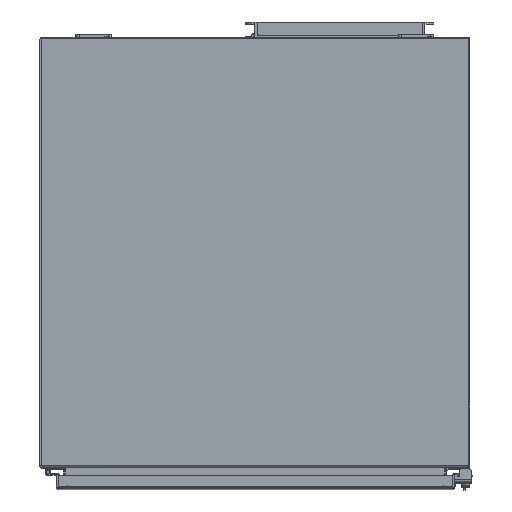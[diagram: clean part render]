
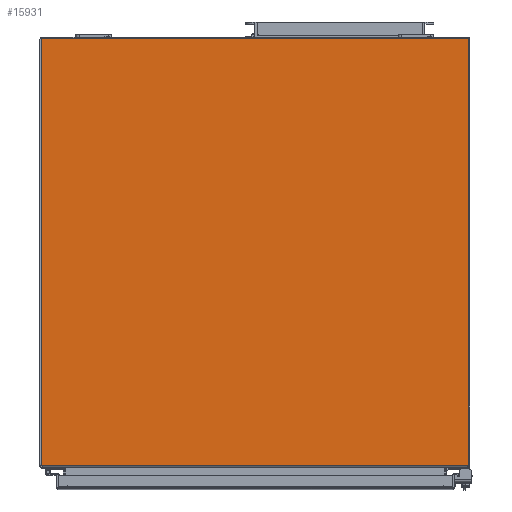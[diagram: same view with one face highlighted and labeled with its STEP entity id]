
A CAD part, top view. The second image highlights one B-rep face of the part: STEP entity #15931.
In plain terms, the highlighted planar face has unit normal (0, 0, 1).
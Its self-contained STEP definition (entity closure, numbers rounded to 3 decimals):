
#1863=LINE('',#29411,#3326);
#1867=LINE('',#29420,#3330);
#1870=LINE('',#29427,#3333);
#1874=LINE('',#29434,#3337);
#3326=VECTOR('',#21430,1000.);
#3330=VECTOR('',#21438,1000.);
#3333=VECTOR('',#21443,1000.);
#3337=VECTOR('',#21449,1000.);
#8552=ORIENTED_EDGE('',*,*,#10736,.F.);
#8553=ORIENTED_EDGE('',*,*,#10735,.F.);
#8554=ORIENTED_EDGE('',*,*,#10728,.F.);
#8555=ORIENTED_EDGE('',*,*,#10731,.T.);
#8556=ORIENTED_EDGE('',*,*,#10739,.F.);
#8557=ORIENTED_EDGE('',*,*,#10724,.T.);
#10724=EDGE_CURVE('',#12154,#12160,#1863,.T.);
#10728=EDGE_CURVE('',#12163,#12164,#1867,.T.);
#10731=EDGE_CURVE('',#12163,#12166,#1870,.T.);
#10735=EDGE_CURVE('',#12164,#12168,#1874,.T.);
#10736=EDGE_CURVE('',#12168,#12160,#12624,.T.);
#10739=EDGE_CURVE('',#12154,#12166,#12627,.T.);
#12154=VERTEX_POINT('',#29322);
#12160=VERTEX_POINT('',#29404);
#12163=VERTEX_POINT('',#29419);
#12164=VERTEX_POINT('',#29421);
#12166=VERTEX_POINT('',#29426);
#12168=VERTEX_POINT('',#29432);
#12624=CIRCLE('',#17352,6.35);
#12627=CIRCLE('',#17357,6.35);
#13580=EDGE_LOOP('',(#8552,#8553,#8554,#8555,#8556,#8557));
#14533=FACE_BOUND('',#13580,.T.);
#15078=PLANE('',#17358);
#15931=ADVANCED_FACE('',(#14533),#15078,.T.);
#17352=AXIS2_PLACEMENT_3D('',#29436,#21452,#21453);
#17357=AXIS2_PLACEMENT_3D('',#29441,#21462,#21463);
#17358=AXIS2_PLACEMENT_3D('',#29442,#21464,#21465);
#21430=DIRECTION('',(1.,0.,0.));
#21438=DIRECTION('',(1.,0.,0.));
#21443=DIRECTION('',(0.,-1.,0.));
#21449=DIRECTION('',(0.,-1.,0.));
#21452=DIRECTION('',(0.,0.,-1.));
#21453=DIRECTION('',(-1.,0.,0.));
#21462=DIRECTION('',(0.,0.,-1.));
#21463=DIRECTION('',(1.,0.,0.));
#21464=DIRECTION('',(0.,0.,1.));
#21465=DIRECTION('',(0.,-1.,0.));
#29322=CARTESIAN_POINT('',(-302.22,-301.142,0.));
#29404=CARTESIAN_POINT('',(302.22,-301.142,0.));
#29411=CARTESIAN_POINT('',(-302.971,-301.142,0.));
#29419=CARTESIAN_POINT('',(-302.971,303.886,0.));
#29420=CARTESIAN_POINT('',(-302.971,303.886,0.));
#29421=CARTESIAN_POINT('',(302.971,303.886,0.));
#29426=CARTESIAN_POINT('',(-302.971,-298.146,0.));
#29427=CARTESIAN_POINT('',(-302.971,303.886,0.));
#29432=CARTESIAN_POINT('',(302.971,-298.146,0.));
#29434=CARTESIAN_POINT('',(302.971,303.886,0.));
#29436=CARTESIAN_POINT('',(296.621,-298.146,0.));
#29441=CARTESIAN_POINT('',(-296.621,-298.146,0.));
#29442=CARTESIAN_POINT('',(-302.971,303.886,0.));
